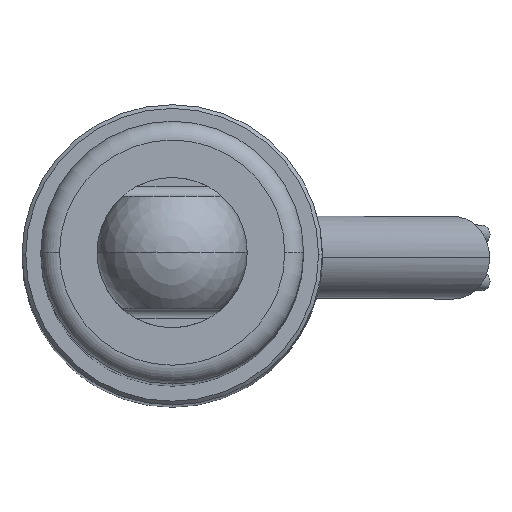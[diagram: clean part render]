
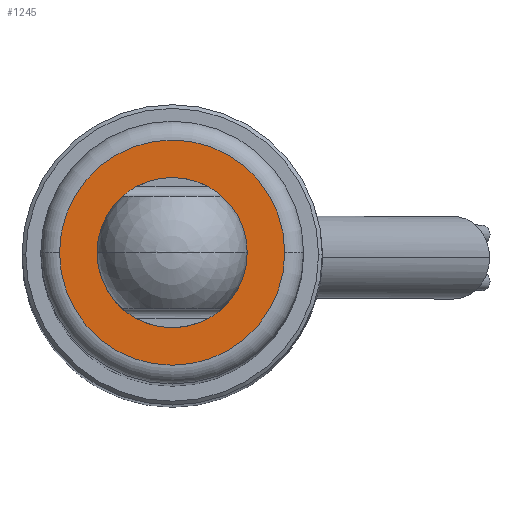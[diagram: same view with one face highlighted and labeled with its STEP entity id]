
A CAD part, top view. The second image highlights one B-rep face of the part: STEP entity #1245.
In plain terms, the highlighted planar face has unit normal (0, 0, 1).
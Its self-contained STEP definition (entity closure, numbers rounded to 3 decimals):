
#392=CARTESIAN_POINT('',(0.,0.,68.));
#393=DIRECTION('',(0.,0.,-1.));
#394=DIRECTION('',(1.,0.,0.));
#395=AXIS2_PLACEMENT_3D('',#392,#393,#394);
#397=CARTESIAN_POINT('',(0.,0.,68.));
#398=DIRECTION('',(0.,0.,1.));
#399=DIRECTION('',(1.,0.,0.));
#400=AXIS2_PLACEMENT_3D('',#397,#398,#399);
#402=CARTESIAN_POINT('',(0.,0.,68.));
#403=DIRECTION('',(0.,0.,-1.));
#404=DIRECTION('',(1.,0.,0.));
#405=AXIS2_PLACEMENT_3D('',#402,#403,#404);
#407=CARTESIAN_POINT('',(0.,0.,68.));
#408=DIRECTION('',(0.,0.,-1.));
#409=DIRECTION('',(-1.,0.,0.));
#410=AXIS2_PLACEMENT_3D('',#407,#408,#409);
#610=CARTESIAN_POINT('',(4.,0.,68.));
#611=VERTEX_POINT('',#610);
#618=CARTESIAN_POINT('',(-4.,0.,68.));
#619=VERTEX_POINT('',#618);
#708=CARTESIAN_POINT('',(6.,0.,68.));
#709=CARTESIAN_POINT('',(-6.,0.,68.));
#710=VERTEX_POINT('',#708);
#711=VERTEX_POINT('',#709);
#1230=CARTESIAN_POINT('',(0.,0.,68.));
#1231=DIRECTION('',(0.,0.,-1.));
#1232=DIRECTION('',(1.,0.,0.));
#1233=AXIS2_PLACEMENT_3D('',#1230,#1231,#1232);
#1234=PLANE('',#1233);
#1235=ORIENTED_EDGE('',*,*,#1197,.T.);
#1236=ORIENTED_EDGE('',*,*,#1212,.T.);
#1237=EDGE_LOOP('',(#1235,#1236));
#1238=FACE_OUTER_BOUND('',#1237,.F.);
#1240=ORIENTED_EDGE('',*,*,#1239,.F.);
#1242=ORIENTED_EDGE('',*,*,#1241,.T.);
#1243=EDGE_LOOP('',(#1240,#1242));
#1244=FACE_BOUND('',#1243,.F.);
#396=CIRCLE('',#395,4.);
#401=CIRCLE('',#400,4.);
#406=CIRCLE('',#405,6.);
#411=CIRCLE('',#410,6.);
#1197=EDGE_CURVE('',#710,#711,#406,.T.);
#1212=EDGE_CURVE('',#711,#710,#411,.T.);
#1239=EDGE_CURVE('',#611,#619,#396,.T.);
#1241=EDGE_CURVE('',#611,#619,#401,.T.);
#1245=ADVANCED_FACE('',(#1238,#1244),#1234,.F.);
